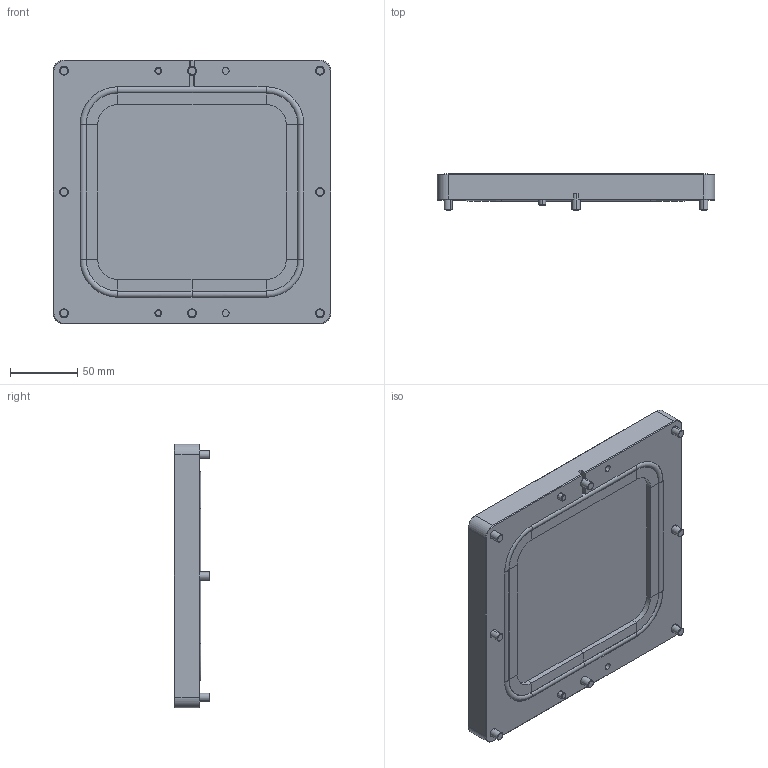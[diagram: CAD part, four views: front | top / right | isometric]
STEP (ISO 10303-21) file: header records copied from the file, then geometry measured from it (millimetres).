
FILE_DESCRIPTION (( 'STEP AP214' ), '1' );
FILE_NAME ('JKR1413-Q-A-V-A-WA-200503.STEP', '2020-05-03T06:08:06', ( '' ), ( '' ), 'SwSTEP 2.0', 'SolidWorks 2018', '' );
FILE_SCHEMA (( 'AUTOMOTIVE_DESIGN' ));
Length unit declared in the file: millimetre
Products named in the file (8): COM-001-M6-20_ル遽; JKR1413-Q-A-V-A-WA-200503; JKR1413-05A; JKR1413-01A-Q; COM-005-5-10L; JKR1413-02A-WA; JKR1413-03A-WA; JKR1413-04A
Assembly tree (15 placements, depth 2):
  JKR1413-Q-A-V-A-WA-200503
    JKR1413-03A-WA
    JKR1413-04A
    JKR1413-01A-Q
    JKR1413-02A-WA
    JKR1413-05A
    COM-005-5-10L  x2
    COM-001-M6-20_ル遽  x8
Bounding box: 206 x 26.4 x 196 mm (x, y, z)
Volume: 599215.8 mm3; surface area: 170024 mm2
Topology: 15 solids, 15 shells, 531 faces, 1172 edges, 693 vertices
Faces by surface type: cylinder 194, plane 189, cone 84, torus 64
Entity records: 11196 total; most frequent: CARTESIAN_POINT 2043, DIRECTION 2031, ORIENTED_EDGE 1728, EDGE_CURVE 864, AXIS2_PLACEMENT_3D 813, VERTEX_POINT 503, EDGE_LOOP 415, CIRCLE 412
